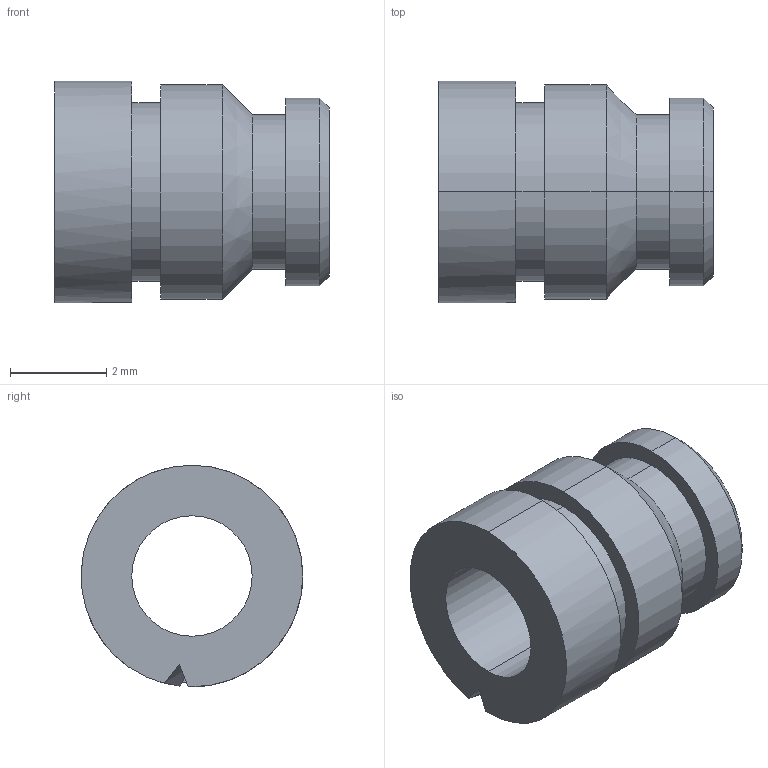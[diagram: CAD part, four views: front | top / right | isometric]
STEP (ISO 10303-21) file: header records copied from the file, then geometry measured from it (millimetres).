
FILE_DESCRIPTION (( 'STEP AP203' ), '1' );
FILE_NAME ('FSUK-HIS-M03-S.STEP', '2021-04-15T08:36:56', ( '' ), ( '' ), 'SwSTEP 2.0', 'SolidWorks 2021', '' );
FILE_SCHEMA (( 'CONFIG_CONTROL_DESIGN' ));
Length unit declared in the file: millimetre
Products named in the file (1): FSUK-HIS-M03-S
Bounding box: 5.7 x 4.6 x 4.6 mm (x, y, z)
Volume: 47.7 mm3; surface area: 152.5 mm2
Topology: 1 solids, 1 shells, 26 faces, 55 edges, 33 vertices
Faces by surface type: cylinder 13, cone 6, plane 5, bspline 2
Entity records: 1150 total; most frequent: CARTESIAN_POINT 512, DIRECTION 126, ORIENTED_EDGE 110, EDGE_CURVE 55, AXIS2_PLACEMENT_3D 54, VERTEX_POINT 33, EDGE_LOOP 30, CIRCLE 29
